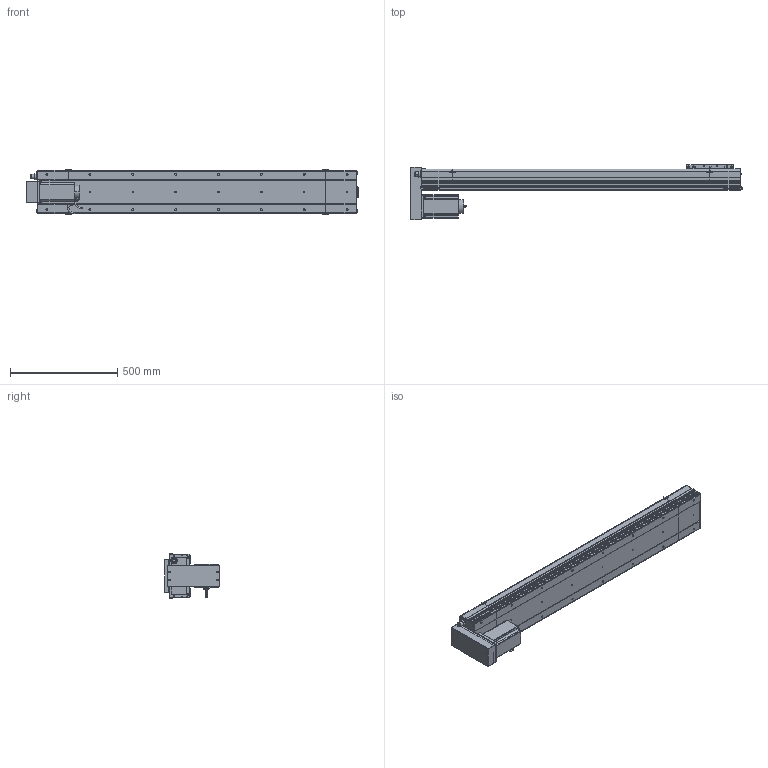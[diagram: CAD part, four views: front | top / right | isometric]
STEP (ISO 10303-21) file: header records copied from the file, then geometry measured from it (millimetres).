
FILE_DESCRIPTION (( 'STEP AP214' ), '1' );
FILE_NAME ('D20 CSH BM S1200.STEP', '2010-06-30T08:20:32', ( 'Conseil Régional Haute-Normandie' ), ( 'Conseil Régional Haute-Normandie' ), 'SwSTEP 2.0', 'SolidWorks 2010', '' );
FILE_SCHEMA (( 'AUTOMOTIVE_DESIGN' ));
Length unit declared in the file: millimetre
Products named in the file (31): D20 CSH BM S1200; ecrou_Default; vis M5 L30_Default; Cache Moteur BM D20_Default; Corp Head BM D20_Default; vis M5 L47_Default; Couvercle Head BM_Default; vis M5 L15_Default; Plaque De Serrage Head BM D20_Default; Plaque de Bout Tail D20_Default; Couvercle_Default; Corp Tail D20_Default; Tail D20_Default; Corp D20 S1200_Default; Plaque De Serrage D20_Default; Chariot D20_Default; Couvercle S1200_Default; Corp S1200_Default; Head BM D20_Default; Glissiere_Default; Support Chariot D20_Default; Moteur motionking 110BLDC170A-640x; Support moteur BM D20_Default; Plaque de Bout Head BM D20_Default; codeur 110BLDC170A-630x; corps 110BLDC170A-630x; avant 110BLDC170A-630x; clavette; Conecteur_Default; Conecteur2_Default
Assembly tree (58 placements, depth 4):
  D20 CSH BM S1200
    Head BM D20_Default
      vis M5 L15_Default  x6
      ecrou_Default  x4
      vis M5 L30_Default  x4
      vis M5 L47_Default  x4
      Moteur motionking 110BLDC170A-640x
        Conecteur2_Default
        avant 110BLDC170A-630x
        codeur 110BLDC170A-630x
        corps 110BLDC170A-630x
        clavette
        Conecteur_Default
      Cache Moteur BM D20_Default
      Support moteur BM D20_Default
      Corp Head BM D20_Default
      Plaque de Bout Head BM D20_Default
      Plaque De Serrage Head BM D20_Default
      Couvercle Head BM_Default
    Tail D20_Default
      Couvercle_Default
      vis M5 L15_Default  x6
      Plaque De Serrage D20_Default
      Corp Tail D20_Default
      Plaque de Bout Tail D20_Default
    Corp D20 S1200_Default
      Corp S1200_Default
      Couvercle S1200_Default
    Chariot D20_Default
      vis M5 L15_Default  x8
      Support Chariot D20_Default
      Chariot D20_Default
      Glissiere_Default
Bounding box: 1547.7 x 257.5 x 206 mm (x, y, z)
Volume: 12403765.1 mm3; surface area: 2336338.7 mm2
Topology: 95 solids, 95 shells, 3526 faces, 8869 edges, 5781 vertices
Faces by surface type: plane 1977, bspline 806, cylinder 605, torus 79, cone 59
Entity records: 156985 total; most frequent: CARTESIAN_POINT 81886, ORIENTED_EDGE 14886, DIRECTION 11147, EDGE_CURVE 7443, VERTEX_POINT 4929, LINE 4871, VECTOR 4871, EDGE_LOOP 3180
